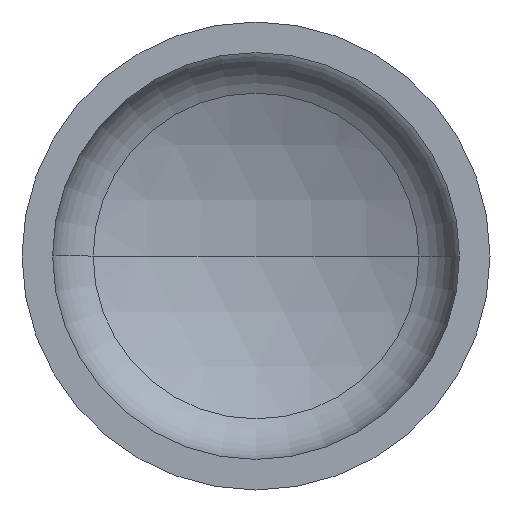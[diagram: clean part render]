
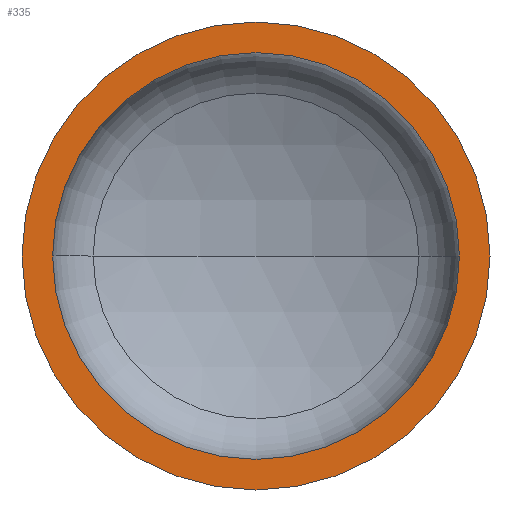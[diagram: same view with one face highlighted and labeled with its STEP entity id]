
A CAD part, front view. The second image highlights one B-rep face of the part: STEP entity #335.
In plain terms, the highlighted planar face has unit normal (0, -1, 0).
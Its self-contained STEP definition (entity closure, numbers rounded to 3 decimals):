
#8 = AXIS2_PLACEMENT_3D ( 'NONE', #360, #336, #172 ) ;
#11 = AXIS2_PLACEMENT_3D ( 'NONE', #165, #166, #98 ) ;
#12 = CARTESIAN_POINT ( 'NONE',  ( 652., 0., 0. ) ) ;
#14 = ORIENTED_EDGE ( 'NONE', *, *, #366, .T. ) ;
#22 = CARTESIAN_POINT ( 'NONE',  ( 750., 0., 0. ) ) ;
#47 = CIRCLE ( 'NONE', #51, 652. ) ;
#51 = AXIS2_PLACEMENT_3D ( 'NONE', #354, #374, #376 ) ;
#53 = AXIS2_PLACEMENT_3D ( 'NONE', #349, #348, #328 ) ;
#55 = CARTESIAN_POINT ( 'NONE',  ( 0., 0., 0. ) ) ;
#66 = EDGE_CURVE ( 'NONE', #81, #130, #77, .T. ) ;
#67 = EDGE_CURVE ( 'NONE', #126, #91, #47, .T. ) ;
#77 = CIRCLE ( 'NONE', #53, 750. ) ;
#81 = VERTEX_POINT ( 'NONE', #215 ) ;
#91 = VERTEX_POINT ( 'NONE', #306 ) ;
#93 = EDGE_LOOP ( 'NONE', ( #201, #138 ) ) ;
#97 = CIRCLE ( 'NONE', #11, 652. ) ;
#98 = DIRECTION ( 'NONE',  ( 1., 0., 0. ) ) ;
#126 = VERTEX_POINT ( 'NONE', #12 ) ;
#130 = VERTEX_POINT ( 'NONE', #22 ) ;
#136 = PLANE ( 'NONE',  #8 ) ;
#138 = ORIENTED_EDGE ( 'NONE', *, *, #350, .F. ) ;
#162 = ORIENTED_EDGE ( 'NONE', *, *, #66, .T. ) ;
#165 = CARTESIAN_POINT ( 'NONE',  ( 0., 0., 0. ) ) ;
#166 = DIRECTION ( 'NONE',  ( 0., -1., 0. ) ) ;
#172 = DIRECTION ( 'NONE',  ( -1., 0., 0. ) ) ;
#201 = ORIENTED_EDGE ( 'NONE', *, *, #67, .F. ) ;
#215 = CARTESIAN_POINT ( 'NONE',  ( -750., 0., 0. ) ) ;
#228 = DIRECTION ( 'NONE',  ( 0., -1., 0. ) ) ;
#306 = CARTESIAN_POINT ( 'NONE',  ( -652., 0., 0. ) ) ;
#314 = CIRCLE ( 'NONE', #404, 750. ) ;
#328 = DIRECTION ( 'NONE',  ( 1., 0., 0. ) ) ;
#332 = FACE_BOUND ( 'NONE', #93, .T. ) ;
#335 = ADVANCED_FACE ( 'NONE', ( #332, #393 ), #136, .F. ) ;
#336 = DIRECTION ( 'NONE',  ( 0., 1., 0. ) ) ;
#348 = DIRECTION ( 'NONE',  ( 0., -1., 0. ) ) ;
#349 = CARTESIAN_POINT ( 'NONE',  ( 0., 0., 0. ) ) ;
#350 = EDGE_CURVE ( 'NONE', #91, #126, #97, .T. ) ;
#354 = CARTESIAN_POINT ( 'NONE',  ( 0., 0., 0. ) ) ;
#360 = CARTESIAN_POINT ( 'NONE',  ( -750., 0., 0. ) ) ;
#366 = EDGE_CURVE ( 'NONE', #130, #81, #314, .T. ) ;
#374 = DIRECTION ( 'NONE',  ( 0., -1., 0. ) ) ;
#376 = DIRECTION ( 'NONE',  ( 1., 0., 0. ) ) ;
#384 = DIRECTION ( 'NONE',  ( 1., 0., 0. ) ) ;
#391 = EDGE_LOOP ( 'NONE', ( #14, #162 ) ) ;
#393 = FACE_OUTER_BOUND ( 'NONE', #391, .T. ) ;
#404 = AXIS2_PLACEMENT_3D ( 'NONE', #55, #228, #384 ) ;
